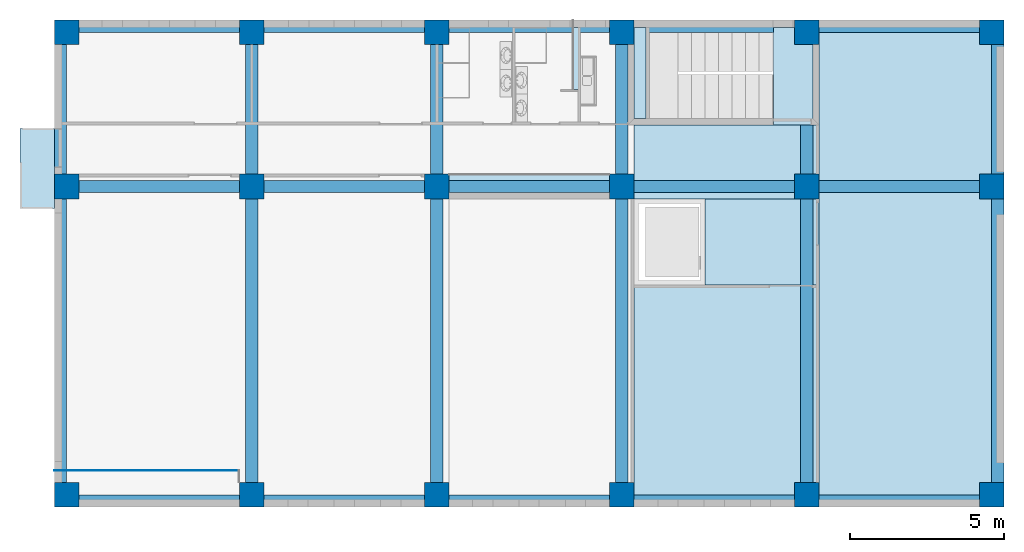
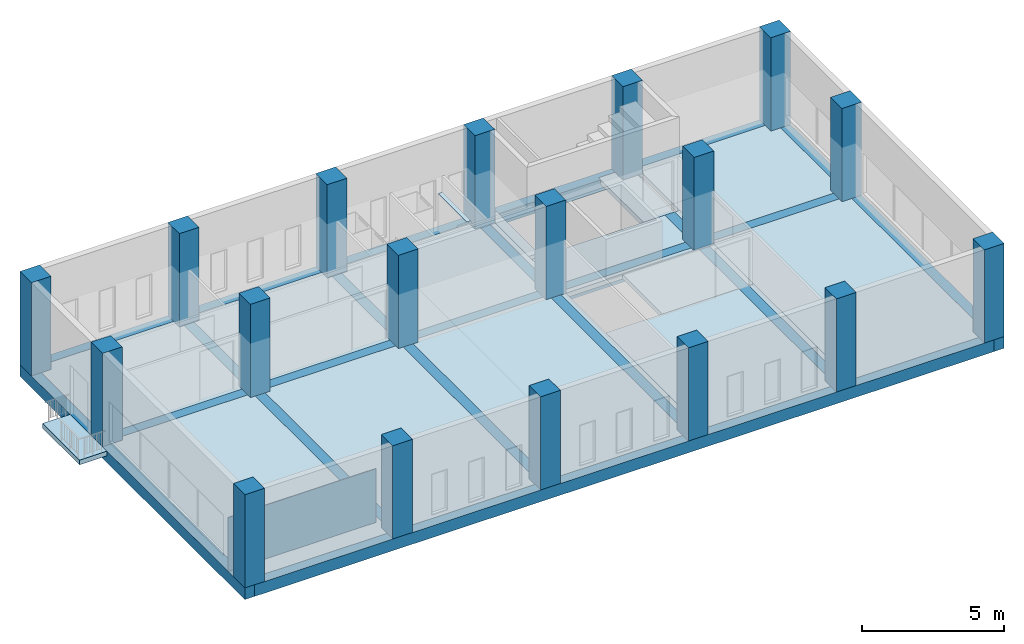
# One storey, part 1 of 14: 18 columns, 9 beams, 9 slabs, 1 wall.
"""IFC2X3 building model written with IfcOpenShell, lengths in millimetres."""

import ifcopenshell
import ifcopenshell.guid

model = None  # the IFC model being written
_history = None  # IfcOwnerHistory: only IFC2X3 demands one
_inside = {}  # id of a spatial element -> (the spatial element, [elements in it])
_under = {}  # id of a project, library or spatial element -> (it, [spatial elements below it])
_declared = {}  # id of a project -> (the project, [libraries it declares])
_typed = {}  # id of a type object -> (the type object, [elements of that type])
_made_of = {}  # id of a material, layer set ... -> (it, [elements and type objects made of it])


def new_model(schema):
    """Start an empty IFC model of exactly this schema.

    Asked for "IFC4X3", IfcOpenShell would pick the latest addendum, in which some entities
    have other attributes; the version numbers below select the first issue.
    IFC2X3 requires an IfcOwnerHistory on every rooted entity: one is made here for all.
    """
    global model, _history
    if schema == "IFC4X3":
        model = ifcopenshell.file(schema_version=(4, 3, 0, 0))
    else:
        model = ifcopenshell.file(schema=schema)
    _inside.clear()
    _under.clear()
    _declared.clear()
    _typed.clear()
    _made_of.clear()
    _history = None
    if model.schema == "IFC2X3":
        org = make("IfcOrganization", Name="unknown")
        user = make(
            "IfcPersonAndOrganization",
            ThePerson=make("IfcPerson", FamilyName="unknown"),
            TheOrganization=org,
        )
        app = make(
            "IfcApplication",
            ApplicationDeveloper=org,
            Version="unknown",
            ApplicationFullName="unknown",
            ApplicationIdentifier="unknown",
        )
        _history = make(
            "IfcOwnerHistory",
            OwningUser=user,
            OwningApplication=app,
            ChangeAction="ADDED",
            CreationDate=0,
        )
    return model


def make(cls, **values):
    """One entity of the class cls with the attributes given. An attribute that is None is left unset."""
    return model.create_entity(
        cls, **{name: value for name, value in values.items() if value is not None}
    )


def entity(cls, *values):
    """Any entity or typed value of the class cls, its attributes in the order of the schema. None: left unset."""
    e = model.create_entity(cls)
    for i, value in enumerate(values):
        if value is not None:
            e[i] = value
    return e


def rooted(cls, **values):
    """An entity with a GlobalId (a new one), such as an element, a storey or a relation."""
    return make(cls, GlobalId=ifcopenshell.guid.new(), OwnerHistory=_history, **values)


def si_unit(unit_type, name, prefix=None):
    """IfcSIUnit, for example si_unit("LENGTHUNIT", "METRE", prefix="MILLI")."""
    return make("IfcSIUnit", UnitType=unit_type, Prefix=prefix, Name=name)


def converted_unit(unit_type, name, factor, base, dimensions=None, offset=None):
    """IfcConversionBasedUnit, such as the inch: factor (a typed value) times the base unit."""
    return make(
        "IfcConversionBasedUnit"
        if offset is None
        else "IfcConversionBasedUnitWithOffset",
        ConversionOffset=offset,
        Dimensions=None
        if dimensions is None
        else entity("IfcDimensionalExponents", *dimensions),
        UnitType=unit_type,
        Name=name,
        ConversionFactor=make(
            "IfcMeasureWithUnit", ValueComponent=factor, UnitComponent=base
        ),
    )


def assignment(units):
    """IfcUnitAssignment: the units of a project."""
    return None if units is None else make("IfcUnitAssignment", Units=units)


def point(xyz):
    """IfcCartesianPoint."""
    return None if xyz is None else make("IfcCartesianPoint", Coordinates=xyz)


def direction(xyz):
    """IfcDirection."""
    return None if xyz is None else make("IfcDirection", DirectionRatios=xyz)


def frame(location, z_axis=None, x_axis=None):
    """IfcAxis2Placement3D, a coordinate frame: its origin and axes. An axis left out is left unset."""
    return make(
        "IfcAxis2Placement3D",
        Location=point(location),
        Axis=direction(z_axis),
        RefDirection=direction(x_axis),
    )


def frame_2d(location, x_axis=None):
    """IfcAxis2Placement2D, a coordinate frame in the plane: its origin and x axis."""
    return make(
        "IfcAxis2Placement2D", Location=point(location), RefDirection=direction(x_axis)
    )


def origin_with_axes():
    """The frame at (0, 0, 0) with the z axis (0, 0, 1) and the x axis (1, 0, 0) written out."""
    return frame((0.0, 0.0, 0.0), z_axis=(0.0, 0.0, 1.0), x_axis=(1.0, 0.0, 0.0))


def origin_2d_with_axis():
    """The frame at (0, 0) in the plane with the x axis (1, 0) written out."""
    return frame_2d((0.0, 0.0), x_axis=(1.0, 0.0))


def place(relative_to, where):
    """IfcLocalPlacement: puts the frame where relative to a parent placement (None: the world)."""
    return make(
        "IfcLocalPlacement", PlacementRelTo=relative_to, RelativePlacement=where
    )


def context(
    kind, dimensions, precision=None, world=None, true_north=None, identifier=None
):
    """IfcGeometricRepresentationContext, for example the 3D "Model" context."""
    return make(
        "IfcGeometricRepresentationContext",
        ContextIdentifier=identifier,
        ContextType=kind,
        CoordinateSpaceDimension=dimensions,
        Precision=precision,
        WorldCoordinateSystem=world,
        TrueNorth=true_north,
    )


def project(units=None, contexts=None):
    """IfcProject with its units and contexts."""
    return rooted(
        "IfcProject",
        Name="project",
        RepresentationContexts=contexts,
        UnitsInContext=assignment(units),
    )


def spatial(cls, under=None, at=None, **own):
    """A site, building, storey or space (cls), placed at a placement, below another one or the project."""
    s = rooted(cls, ObjectPlacement=at, **own)
    if under is not None:
        _under.setdefault(under.id(), (under, []))[1].append(s)
    return s


def polyline(points):
    """IfcPolyline through the points."""
    return make("IfcPolyline", Points=[point(p) for p in points])


def profile(cls, at=None, kind="AREA", **sizes):
    """A parametric profile (cls). Its sizes go by their IFC names, for example OverallWidth=200.0."""
    return make(cls, ProfileType=kind, Position=at, **sizes)


def rectangle(**sizes):
    """IfcRectangleProfileDef."""
    return profile("IfcRectangleProfileDef", **sizes)


def outline(outer, holes=None, kind="AREA"):
    """IfcArbitraryClosedProfileDef: a profile drawn as a closed curve; with holes, ...WithVoids."""
    if holes is None:
        return make("IfcArbitraryClosedProfileDef", ProfileType=kind, OuterCurve=outer)
    return make(
        "IfcArbitraryProfileDefWithVoids",
        ProfileType=kind,
        OuterCurve=outer,
        InnerCurves=holes,
    )


def extrude(swept, where, along, depth):
    """IfcExtrudedAreaSolid: the profile swept, set in the frame where, extruded along a direction by depth."""
    return make(
        "IfcExtrudedAreaSolid",
        SweptArea=swept,
        Position=where,
        ExtrudedDirection=direction(along),
        Depth=depth,
    )


def shape(context_of_items, identifier, shape_type, items):
    """IfcShapeRepresentation: the items that make up one representation, for example the "Body"."""
    return make(
        "IfcShapeRepresentation",
        ContextOfItems=context_of_items,
        RepresentationIdentifier=identifier,
        RepresentationType=shape_type,
        Items=items,
    )


def material(Name=None, Category=None):
    """IfcMaterial."""
    return make("IfcMaterial", Name=Name, Category=Category)


def layer(
    of_material, thickness, ventilated=None, Name=None, Category=None, Priority=None
):
    """IfcMaterialLayer: one layer of a wall or slab, of a material (None: an air gap)."""
    return make(
        "IfcMaterialLayer",
        Material=of_material,
        LayerThickness=thickness,
        IsVentilated=ventilated,
        Name=Name,
        Category=Category,
        Priority=Priority,
    )


def layer_set(layers, Name=None):
    """IfcMaterialLayerSet."""
    return make("IfcMaterialLayerSet", MaterialLayers=layers, LayerSetName=Name)


def layer_usage(for_layer_set, set_direction, sense, offset, extent=None):
    """IfcMaterialLayerSetUsage: how a layer set lies in its element."""
    return make(
        "IfcMaterialLayerSetUsage",
        ForLayerSet=for_layer_set,
        LayerSetDirection=set_direction,
        DirectionSense=sense,
        OffsetFromReferenceLine=offset,
        ReferenceExtent=extent,
    )


def made_of(thing, what):
    """Note that an element or type object is made of a material, layer set ...; save() writes the relation."""
    if what is not None:
        _made_of.setdefault(what.id(), (what, []))[1].append(thing)
    return thing


def type_object(cls, material=None, **own):
    """A type object (cls), such as IfcWallType, which elements share."""
    return made_of(rooted(cls, **own), material)


def element(
    cls,
    number,
    at=None,
    inside=None,
    cuts=None,
    type_object=None,
    material=None,
    context=None,
    identifier="Body",
    shape_type=None,
    held_by="IfcProductDefinitionShape",
    body=None,
    shapes=None,
    **own,
):
    """One element of the class cls, such as IfcWall. Its Tag is "e" and its number.

    at: its placement. inside: the storey or other place that contains it. cuts: it is an
    opening in that element (IfcRelVoidsElement). A single representation is given by context,
    identifier, shape_type and body (its items); several are given by shapes. held_by: the class
    of the entity that holds the representations. save() writes the other relations.
    """
    e = rooted(cls, Tag="e%d" % number, ObjectPlacement=at, **own)
    if body is not None:
        shapes = [shape(context, identifier, shape_type, body)]
    if shapes is not None:
        e.Representation = make(held_by, Representations=shapes)
    if inside is not None:
        _inside.setdefault(inside.id(), (inside, []))[1].append(e)
    if cuts is not None:
        rooted(
            "IfcRelVoidsElement", RelatingBuildingElement=cuts, RelatedOpeningElement=e
        )
    if type_object is not None:
        _typed.setdefault(type_object.id(), (type_object, []))[1].append(e)
    return made_of(e, material)


def aggregate(whole, parts):
    """IfcRelAggregates: a whole, such as a stair, and the parts it consists of."""
    return rooted("IfcRelAggregates", RelatingObject=whole, RelatedObjects=parts)


def save(model, path):
    """Write the relations noted so far, then the file.

    IfcRelAggregates (storeys below a building ...), IfcRelContainedInSpatialStructure (elements
    in a storey), IfcRelDefinesByType, IfcRelAssociatesMaterial and IfcRelDeclares: one each for
    every whole, place, type object, material and project.
    """
    for whole, parts in _under.values():
        aggregate(whole, parts)
    for where, things in _inside.values():
        rooted(
            "IfcRelContainedInSpatialStructure",
            RelatedElements=things,
            RelatingStructure=where,
        )
    for kind, things in _typed.values():
        rooted("IfcRelDefinesByType", RelatedObjects=things, RelatingType=kind)
    for what, things in _made_of.values():
        rooted("IfcRelAssociatesMaterial", RelatedObjects=things, RelatingMaterial=what)
    for by, libraries in _declared.values():
        rooted("IfcRelDeclares", RelatingContext=by, RelatedDefinitions=libraries)
    model.write(path)


model = new_model("IFC2X3")

# Units and contexts
model_context = context("Model", 3, precision=1e-05, world=origin_with_axes(), true_north=direction((0.0, 1.0)))
ifc_project = project(units=[si_unit("LENGTHUNIT", "METRE", prefix="MILLI"), si_unit("AREAUNIT", "SQUARE_METRE"), si_unit("VOLUMEUNIT", "CUBIC_METRE"), converted_unit("PLANEANGLEUNIT", "DEGREE", entity("IfcPlaneAngleMeasure", 0.017453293), si_unit("PLANEANGLEUNIT", "RADIAN"), dimensions=[0, 0, 0, 0, 0, 0, 0]), si_unit("SOLIDANGLEUNIT", "STERADIAN"), si_unit("MASSUNIT", "GRAM"), si_unit("TIMEUNIT", "SECOND"), si_unit("THERMODYNAMICTEMPERATUREUNIT", "DEGREE_CELSIUS"), si_unit("LUMINOUSINTENSITYUNIT", "LUMEN")], contexts=[model_context])

# Site, building, storey
site_placement = place(None, origin_with_axes())
site = spatial("IfcSite", under=ifc_project, at=site_placement, Name="\x83T\x83C\x83g", CompositionType="ELEMENT")
building_placement = place(site_placement, origin_with_axes())
building = spatial("IfcBuilding", under=site, at=building_placement, Name="Daitec-Sample 201208", CompositionType="ELEMENT")
storey_placement = place(building_placement, frame((0.0, 0.0, 8000.0), z_axis=(0.0, 0.0, 1.0), x_axis=(1.0, 0.0, 0.0)))
storey = spatial("IfcBuildingStorey", under=building, at=storey_placement, Name="3F", CompositionType="ELEMENT", Elevation=8000.0)

# Columns
ifc_material_1 = material(Name="\x83R\x83\x93\x83N\x83\x8a\x81[\x83g-\x8d\\\x91¢2")
column_type = type_object("IfcColumnType", Name="800X800", PredefinedType="NOTDEFINED")
for number, where, z_axis, x_axis, name in (
    (1, (12500.0, 18400.0, 0.0), (0.0, 0.0, 1.0), (1.0, 0.0, 0.0), "C6"),
    (2, (6500.0, 18400.0, 0.0), (0.0, 0.0, 1.0), (1.0, 0.0, 0.0), "C5"),
    (3, (12500.0, 23400.0, 0.0), (0.0, 0.0, 1.0), (1.0, 0.0, 0.0), "C3"),
    (4, (30500.0, 18400.0, 0.0), (0.0, 0.0, 1.0), (1.0, 0.0, 0.0), "C9"),
    (5, (6500.0, 23400.0, 0.0), (0.0, 0.0, 1.0), (1.0, 0.0, 0.0), "C4"),
    (6, (24500.0, 18400.0, 0.0), (0.0, 0.0, 1.0), (1.0, 0.0, 0.0), "C8"),
    (7, (18500.0, 18400.0, 0.0), (0.0, 0.0, 1.0), (1.0, 0.0, 0.0), "C7"),
    (8, (6500.0, 8400.0, 0.0), (0.0, 0.0, 1.0), (1.0, 0.0, 0.0), "C1"),
    (9, (30500.0, 23400.0, 0.0), (0.0, 0.0, 1.0), (1.0, 0.0, 0.0), "C9"),
    (10, (36500.0, 18400.0, 0.0), (0.0, 0.0, 1.0), (1.0, 0.0, 0.0), "C7"),
    (11, (36500.0, 23400.0, 0.0), (0.0, 0.0, 1.0), (1.0, 0.0, 0.0), "C8"),
    (12, (30500.0, 8400.0, 0.0), (0.0, 0.0, 1.0), (1.0, 0.0, 0.0), "C5"),
    (13, (18500.0, 8400.0, 0.0), (0.0, 0.0, 1.0), (1.0, 0.0, 0.0), "C3"),
    (14, (36500.0, 8400.0, 0.0), (0.0, 0.0, 1.0), (1.0, 0.0, 0.0), "C6"),
    (15, (24500.0, 23400.0, 0.0), (0.0, 0.0, 1.0), (1.0, 0.0, 0.0), "C0"),
    (16, (18500.0, 23400.0, 0.0), (0.0, 0.0, 1.0), (1.0, 0.0, 0.0), "C1"),
    (17, (24500.0, 8400.0, 0.0), (0.0, 0.0, 1.0), (1.0, 0.0, 0.0), "C4"),
    (18, (12500.0, 8400.0, 0.0), (0.0, 0.0, 1.0), (1.0, 0.0, 0.0), "C2"),
):
    element("IfcColumn", number, at=place(storey_placement, frame(where, z_axis=z_axis, x_axis=x_axis)), inside=storey, type_object=column_type, material=ifc_material_1, Name=name, ObjectType="800X800", context=model_context, shape_type="SweptSolid", body=[
        extrude(rectangle(XDim=800.0, YDim=800.0, at=origin_2d_with_axis()), origin_with_axes(), (0.0, 0.0, 1.0), 4000.0),
    ])

# Beams
beam_type = type_object("IfcBeamType", Name="500X400", PredefinedType="NOTDEFINED")
beam_1_placement = place(storey_placement, frame((6100.0, 23800.0, 0.0), z_axis=(0.0, 0.0, 1.0), x_axis=(-1.0, 0.0, 0.0)))
element("IfcBeam", 19, at=beam_1_placement, inside=storey, type_object=beam_type, material=ifc_material_1, Name="G9", ObjectType="500X400", context=model_context, shape_type="SweptSolid", body=[
    extrude(rectangle(XDim=500.0, YDim=400.0, at=frame_2d((-250.0, -200.0), x_axis=(1.0, 0.0))), frame((0.0, 0.0, 0.0), z_axis=(0.0, 1.0, 0.0), x_axis=(0.0, 0.0, 1.0)), (0.0, 0.0, 1.0), 15800.0),
])
beam_2_placement = place(storey_placement, frame((6900.0, 18400.0, 0.0), z_axis=(0.0, 0.0, 1.0), x_axis=(0.0, -1.0, 0.0)))
element("IfcBeam", 20, at=beam_2_placement, inside=storey, type_object=beam_type, material=ifc_material_1, Name="G4", ObjectType="500X400", context=model_context, shape_type="SweptSolid", body=[
    extrude(rectangle(XDim=500.0, YDim=400.0, at=frame_2d((-250.0, 0.0), x_axis=(1.0, 0.0))), frame((0.0, 0.0, 0.0), z_axis=(0.0, 1.0, 0.0), x_axis=(0.0, 0.0, 1.0)), (0.0, 0.0, 1.0), 29200.0),
])
beam_3_placement = place(storey_placement, frame((30500.0, 23000.0, 0.0), z_axis=(0.0, 0.0, 1.0), x_axis=(-1.0, 0.0, 0.0)))
element("IfcBeam", 21, at=beam_3_placement, inside=storey, type_object=beam_type, material=ifc_material_1, Name="G3", ObjectType="500X400", context=model_context, shape_type="SweptSolid", body=[
    extrude(rectangle(XDim=500.0, YDim=400.0, at=frame_2d((-250.0, 0.0), x_axis=(1.0, 0.0))), frame((0.0, 0.0, 0.0), z_axis=(0.0, 1.0, 0.0), x_axis=(0.0, 0.0, 1.0)), (0.0, 0.0, 1.0), 14200.0),
])
beam_4_placement = place(storey_placement, frame((6100.0, 8000.0, 0.0), z_axis=(0.0, 0.0, 1.0), x_axis=(0.0, -1.0, 0.0)))
element("IfcBeam", 22, at=beam_4_placement, inside=storey, type_object=beam_type, material=ifc_material_1, Name="G6", ObjectType="500X400", context=model_context, shape_type="SweptSolid", body=[
    extrude(rectangle(XDim=500.0, YDim=400.0, at=frame_2d((-250.0, -200.0), x_axis=(1.0, 0.0))), frame((0.0, 0.0, 0.0), z_axis=(0.0, 1.0, 0.0), x_axis=(0.0, 0.0, 1.0)), (0.0, 0.0, 1.0), 30800.0),
])
beam_5_placement = place(storey_placement, frame((36900.0, 8000.0, 0.0), z_axis=(0.0, 0.0, 1.0), x_axis=(1.0, 0.0, 0.0)))
element("IfcBeam", 23, at=beam_5_placement, inside=storey, type_object=beam_type, material=ifc_material_1, Name="G7", ObjectType="500X400", context=model_context, shape_type="SweptSolid", body=[
    extrude(rectangle(XDim=500.0, YDim=400.0, at=frame_2d((-250.0, -200.0), x_axis=(1.0, 0.0))), frame((0.0, 0.0, 0.0), z_axis=(0.0, 1.0, 0.0), x_axis=(0.0, 0.0, 1.0)), (0.0, 0.0, 1.0), 15800.0),
])
for number, where, z_axis, x_axis, name in (
    (24, (24500.0, 23000.0, 0.0), (0.0, 0.0, 1.0), (-1.0, 0.0, 0.0), "G2"),
    (25, (18500.0, 23000.0, 0.0), (0.0, 0.0, 1.0), (-1.0, 0.0, 0.0), "G1"),
):
    element("IfcBeam", number, at=place(storey_placement, frame(where, z_axis=z_axis, x_axis=x_axis)), inside=storey, type_object=beam_type, material=ifc_material_1, Name=name, ObjectType="500X400", context=model_context, shape_type="SweptSolid", body=[
        extrude(rectangle(XDim=500.0, YDim=400.0, at=frame_2d((-250.0, 0.0), x_axis=(1.0, 0.0))), frame((0.0, 0.0, 0.0), z_axis=(0.0, 1.0, 0.0), x_axis=(0.0, 0.0, 1.0)), (0.0, 0.0, 1.0), 14200.0),
    ])
beam_6_placement = place(storey_placement, frame((36900.0, 23800.0, 0.0), z_axis=(0.0, 0.0, 1.0), x_axis=(0.0, 1.0, 0.0)))
element("IfcBeam", 26, at=beam_6_placement, inside=storey, type_object=beam_type, material=ifc_material_1, Name="G8", ObjectType="500X400", context=model_context, shape_type="SweptSolid", body=[
    extrude(rectangle(XDim=500.0, YDim=400.0, at=frame_2d((-250.0, -200.0), x_axis=(1.0, 0.0))), frame((0.0, 0.0, 0.0), z_axis=(0.0, 1.0, 0.0), x_axis=(0.0, 0.0, 1.0)), (0.0, 0.0, 1.0), 30800.0),
])
beam_7_placement = place(storey_placement, frame((12500.0, 23000.0, 0.0), z_axis=(0.0, 0.0, 1.0), x_axis=(-1.0, 0.0, 0.0)))
element("IfcBeam", 27, at=beam_7_placement, inside=storey, type_object=beam_type, material=ifc_material_1, Name="G0", ObjectType="500X400", context=model_context, shape_type="SweptSolid", body=[
    extrude(rectangle(XDim=500.0, YDim=400.0, at=frame_2d((-250.0, 0.0), x_axis=(1.0, 0.0))), frame((0.0, 0.0, 0.0), z_axis=(0.0, 1.0, 0.0), x_axis=(0.0, 0.0, 1.0)), (0.0, 0.0, 1.0), 14200.0),
])

# Slabs
ifc_material_2 = material(Name="\x83v\x83\x89\x83X\x83^\x81[\x83{\x81[\x83h")
ifc_layer_1 = layer(ifc_material_2, 200.0, ventilated="UNKNOWN")
ifc_layer_set_1 = layer_set([ifc_layer_1], Name="\x83v\x83\x89\x83X\x83^\x81[\x83{\x81[\x83h 200")
ifc_layer_usage_1 = layer_usage(ifc_layer_set_1, "AXIS3", "NEGATIVE", 200.0)
slab_1_placement = place(storey_placement, frame((24900.0, 23550.0, -200.0), z_axis=(0.0, 0.0, 1.0), x_axis=(1.0, 0.0, 0.0)))
element("IfcSlab", 28, at=slab_1_placement, inside=storey, material=ifc_layer_usage_1, Name="S5", PredefinedType="FLOOR", context=model_context, shape_type="SweptSolid", body=[
    extrude(outline(polyline([(0.0, 0.0), (0.0, -2950.0), (393.97347, -2950.0), (393.97347, 0.0), (0.0, 0.0)])), origin_with_axes(), (0.0, 0.0, 1.0), 200.0),
])
ifc_layer_2 = layer(ifc_material_2, 10.0, ventilated="UNKNOWN")
ifc_layer_set_2 = layer_set([ifc_layer_2], Name="\x83v\x83\x89\x83X\x83^\x81[\x83{\x81[\x83h 10")
ifc_layer_usage_2 = layer_usage(ifc_layer_set_2, "AXIS3", "NEGATIVE", 10.0)
slab_2_placement = place(storey_placement, frame((22919.95, 23550.0, 1590.0), z_axis=(0.0, 0.0, 1.0), x_axis=(1.0, 0.0, 0.0)))
element("IfcSlab", 29, at=slab_2_placement, inside=storey, material=ifc_layer_usage_2, Name="S2", PredefinedType="FLOOR", context=model_context, shape_type="SweptSolid", body=[
    extrude(outline(polyline([(0.0, 0.0), (0.0, -2010.0), (171.88725, -2010.0), (171.88725, 0.0), (0.0, 0.0)])), origin_with_axes(), (0.0, 0.0, 1.0), 10.0),
])
ifc_layer_3 = layer(ifc_material_1, 200.0, ventilated="UNKNOWN")
ifc_layer_set_3 = layer_set([ifc_layer_3], Name="\x83R\x83\x93\x83N\x83\x8a\x81[\x83g-\x8d\\\x91¢2 200")
ifc_layer_usage_3 = layer_usage(ifc_layer_set_3, "AXIS3", "NEGATIVE", 200.0)
slab_3_placement = place(storey_placement, frame((6100.0, 20284.787, -200.0), z_axis=(0.0, 0.0, 1.0), x_axis=(1.0, 0.0, 0.0)))
element("IfcSlab", 30, at=slab_3_placement, inside=storey, material=ifc_layer_usage_3, Name="S9", PredefinedType="FLOOR", context=model_context, shape_type="SweptSolid", body=[
    extrude(outline(polyline([(0.0, 0.0), (-1116.2075, 0.0), (-1116.2075, -2600.0), (0.0, -2600.0), (0.0, 0.0)])), origin_with_axes(), (0.0, 0.0, 1.0), 200.0),
])
ifc_layer_usage_4 = layer_usage(ifc_layer_set_3, "AXIS3", "NEGATIVE", 200.0)
slab_4_placement = place(storey_placement, frame((6350.0, 23550.0, -200.0), z_axis=(0.0, 0.0, 1.0), x_axis=(1.0, 0.0, 0.0)))
element("IfcSlab", 31, at=slab_4_placement, inside=storey, material=ifc_layer_usage_4, Name="S9", PredefinedType="FLOOR", context=model_context, shape_type="SweptSolid", body=[
    extrude(outline(polyline([(0.0, 0.0), (0.0, -15300.0), (18550.0, -15300.0), (18550.0, 0.0), (0.0, 0.0)])), origin_with_axes(), (0.0, 0.0, 1.0), 200.0),
])
ifc_layer_usage_5 = layer_usage(ifc_layer_set_3, "AXIS3", "NEGATIVE", 200.0)
slab_5_placement = place(storey_placement, frame((24900.0, 8250.0, -200.0), z_axis=(0.0, 0.0, 1.0), x_axis=(1.0, 0.0, 0.0)))
element("IfcSlab", 32, at=slab_5_placement, inside=storey, material=ifc_layer_usage_5, Name="S0", PredefinedType="FLOOR", context=model_context, shape_type="SweptSolid", body=[
    extrude(outline(polyline([(0.0, 0.0), (6000.0, 0.0), (6000.0, 6950.0), (0.0, 6950.0), (0.0, 0.0)])), origin_with_axes(), (0.0, 0.0, 1.0), 200.0),
])
ifc_layer_usage_6 = layer_usage(ifc_layer_set_3, "AXIS3", "NEGATIVE", 200.0)
slab_6_placement = place(storey_placement, frame((36650.0, 8250.0, -200.0), z_axis=(0.0, 0.0, 1.0), x_axis=(1.0, 0.0, 0.0)))
element("IfcSlab", 33, at=slab_6_placement, inside=storey, material=ifc_layer_usage_6, Name="S1", PredefinedType="FLOOR", context=model_context, shape_type="SweptSolid", body=[
    extrude(outline(polyline([(0.0, 0.0), (0.0, 15300.0), (-5750.0, 15300.0), (-5750.0, 0.0), (0.0, 0.0)])), origin_with_axes(), (0.0, 0.0, 1.0), 200.0),
])
ifc_layer_usage_7 = layer_usage(ifc_layer_set_3, "AXIS3", "NEGATIVE", 200.0)
slab_7_placement = place(storey_placement, frame((24900.0, 20399.909, -200.0), z_axis=(0.0, 0.0, 1.0), x_axis=(1.0, 0.0, 0.0)))
element("IfcSlab", 34, at=slab_7_placement, inside=storey, material=ifc_layer_usage_7, Name="S2", PredefinedType="FLOOR", context=model_context, shape_type="SweptSolid", body=[
    extrude(outline(polyline([(0.0, 0.0), (0.0, -2399.9089), (6000.0, -2399.9089), (6000.0, 0.0), (0.0, 0.0)])), origin_with_axes(), (0.0, 0.0, 1.0), 200.0),
])
ifc_layer_usage_8 = layer_usage(ifc_layer_set_3, "AXIS3", "NEGATIVE", 200.0)
slab_8_placement = place(storey_placement, frame((27200.0, 18000.0, -200.0), z_axis=(0.0, 0.0, 1.0), x_axis=(1.0, 0.0, 0.0)))
element("IfcSlab", 35, at=slab_8_placement, inside=storey, material=ifc_layer_usage_8, Name="S3", PredefinedType="FLOOR", context=model_context, shape_type="SweptSolid", body=[
    extrude(outline(polyline([(0.0, 0.0), (0.0, -2800.0), (3700.0, -2800.0), (3700.0, 0.0), (0.0, 0.0)])), origin_with_axes(), (0.0, 0.0, 1.0), 200.0),
])
ifc_layer_usage_9 = layer_usage(ifc_layer_set_3, "AXIS3", "NEGATIVE", 200.0)
slab_9_placement = place(storey_placement, frame((29429.777, 23550.0, -200.0), z_axis=(0.0, 0.0, 1.0), x_axis=(1.0, 0.0, 0.0)))
element("IfcSlab", 36, at=slab_9_placement, inside=storey, material=ifc_layer_usage_9, Name="S6", PredefinedType="FLOOR", context=model_context, shape_type="SweptSolid", body=[
    extrude(outline(polyline([(0.0, 0.0), (0.0, -3150.0911), (1270.2235, -3150.0911), (1270.2235, 0.0), (0.0, 0.0)])), origin_with_axes(), (0.0, 0.0, 1.0), 200.0),
])

# Wall
ifc_material_3 = material(Name="\x83X\x83`\x81[\x83\x8b")
ifc_layer_4 = layer(ifc_material_3, 20.0, ventilated="UNKNOWN")
ifc_layer_set_4 = layer_set([ifc_layer_4], Name="\x83X\x83`\x81[\x83\x8b 20")
ifc_layer_usage_10 = layer_usage(ifc_layer_set_4, "AXIS2", "NEGATIVE", 0.0)
wall_type = type_object("IfcWallType", Name="\x83X\x83`\x81[\x83\x8b 20", PredefinedType="NOTDEFINED")
wall_placement = place(storey_placement, frame((6100.0, 9200.0, 0.0), z_axis=(0.0, 0.0, 1.0), x_axis=(1.0, 0.0, 0.0)))
element("IfcWallStandardCase", 37, at=wall_placement, inside=storey, type_object=wall_type, material=ifc_layer_usage_10, Name="W0", context=model_context, shape_type="SweptSolid", body=[
    extrude(outline(polyline([(0.0, -20.0), (6000.0, -20.0), (6000.0, 0.0), (0.0, 0.0), (0.0, -20.0)])), origin_with_axes(), (0.0, 0.0, 1.0), 2300.0),
])

save(model, "model.ifc")
